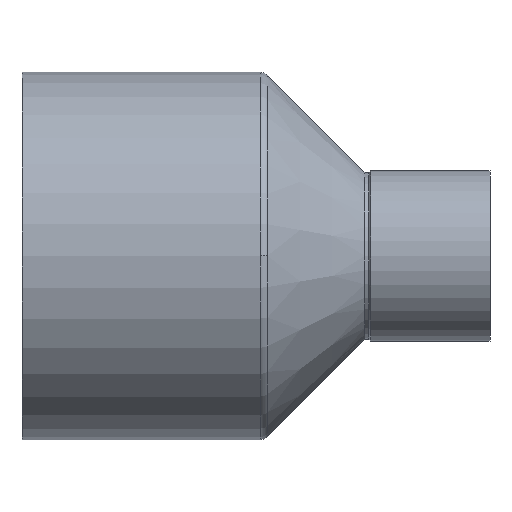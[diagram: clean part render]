
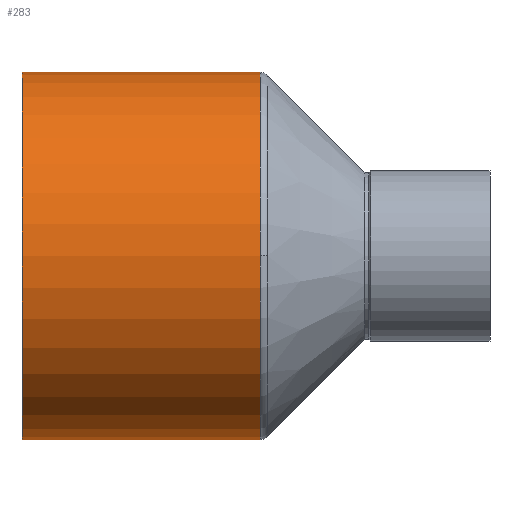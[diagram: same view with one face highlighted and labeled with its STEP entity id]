
A CAD part, top view. The second image highlights one B-rep face of the part: STEP entity #283.
In plain terms, the highlighted cylindrical face has radius 22.375 mm (diameter 44.75 mm), a partial arc.
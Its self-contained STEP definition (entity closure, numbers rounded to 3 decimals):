
#207=CARTESIAN_POINT('',(29.,22.375,0.0));
#208=VERTEX_POINT('',#207);
#216=CARTESIAN_POINT('',(29.,0.,22.375));
#217=VERTEX_POINT('',#216);
#218=CARTESIAN_POINT('',(29.,0.0,0.0));
#219=DIRECTION('',(1.0,0.0,0.0));
#220=DIRECTION('',(0.0,1.0,0.0));
#221=AXIS2_PLACEMENT_3D('',#218,#219,#220);
#222=CIRCLE('',#221,22.375);
#223=EDGE_CURVE('',#208,#217,#222,.T.);
#243=CARTESIAN_POINT('',(14.5,0.0,0.0));
#244=DIRECTION('',(1.0,0.0,0.0));
#245=DIRECTION('',(0.0,1.0,0.0));
#246=AXIS2_PLACEMENT_3D('',#243,#244,#245);
#247=CYLINDRICAL_SURFACE('',#246,22.375);
#248=CARTESIAN_POINT('',(0.0,22.375,0.0));
#249=VERTEX_POINT('',#248);
#250=CARTESIAN_POINT('',(0.0,22.375,0.0));
#251=DIRECTION('',(1.0,0.0,0.0));
#252=VECTOR('',#251,29.);
#253=LINE('',#250,#252);
#254=EDGE_CURVE('',#249,#208,#253,.T.);
#255=ORIENTED_EDGE('',*,*,#254,.F.);
#256=CARTESIAN_POINT('',(0.0,-22.375,0.));
#257=VERTEX_POINT('',#256);
#258=CARTESIAN_POINT('',(0.0,0.0,0.0));
#259=DIRECTION('',(1.0,0.0,0.0));
#260=DIRECTION('',(0.0,1.0,0.0));
#261=AXIS2_PLACEMENT_3D('',#258,#259,#260);
#262=CIRCLE('',#261,22.375);
#263=EDGE_CURVE('',#249,#257,#262,.T.);
#264=ORIENTED_EDGE('',*,*,#263,.T.);
#265=CARTESIAN_POINT('',(29.,-22.375,0.));
#266=VERTEX_POINT('',#265);
#267=CARTESIAN_POINT('',(29.,-22.375,0.));
#268=DIRECTION('',(-1.0,0.0,0.0));
#269=VECTOR('',#268,29.);
#270=LINE('',#267,#269);
#271=EDGE_CURVE('',#266,#257,#270,.T.);
#272=ORIENTED_EDGE('',*,*,#271,.F.);
#273=CARTESIAN_POINT('',(29.,0.0,0.0));
#274=DIRECTION('',(1.0,0.0,0.0));
#275=DIRECTION('',(0.0,1.0,0.0));
#276=AXIS2_PLACEMENT_3D('',#273,#274,#275);
#277=CIRCLE('',#276,22.375);
#278=EDGE_CURVE('',#217,#266,#277,.T.);
#279=ORIENTED_EDGE('',*,*,#278,.F.);
#280=ORIENTED_EDGE('',*,*,#223,.F.);
#281=EDGE_LOOP('',(#255,#264,#272,#279,#280));
#282=FACE_OUTER_BOUND('',#281,.T.);
#283=ADVANCED_FACE('',(#282),#247,.T.);
